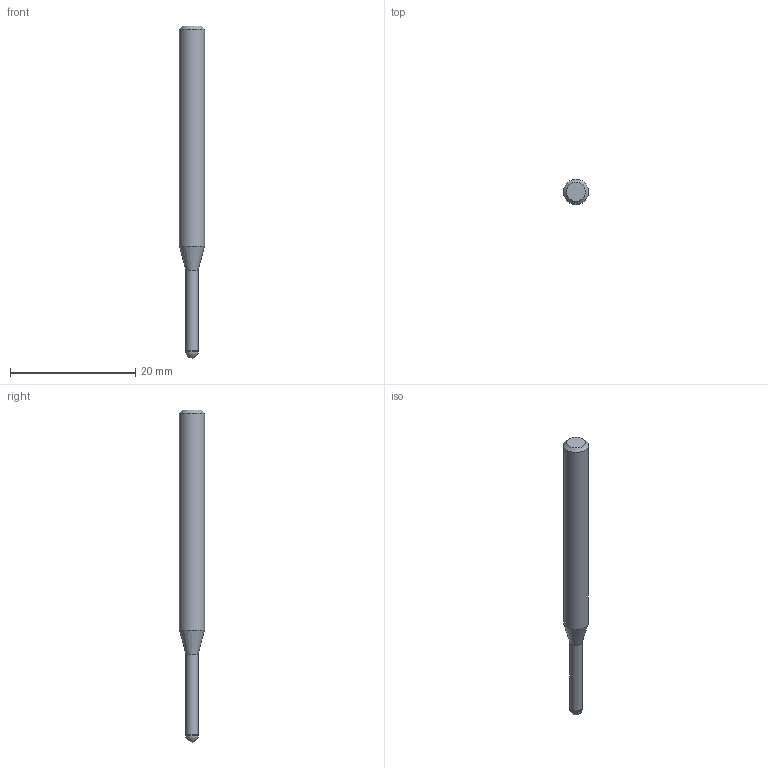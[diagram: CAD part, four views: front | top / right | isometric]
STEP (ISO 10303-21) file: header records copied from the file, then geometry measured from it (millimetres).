
FILE_DESCRIPTION((''),'2;1');
FILE_NAME('C:\Users\nsx150\AppData\Local\Temp\Mastercam 2021\LJSIDMOTM8\TEMP.step','2021-08-03T14:24:19',(''),(''),'STEP Write','Mastercam 2021 ... CNC Software, Inc.','');
FILE_SCHEMA(('AUTOMOTIVE_DESIGN'));
Length unit declared in the file: millimetre
Products named in the file (1): None
Bounding box: 4 x 4 x 53 mm (x, y, z)
Volume: 508.6 mm3; surface area: 579.1 mm2
Topology: 2 solids, 2 shells, 9 faces, 14 edges, 8 vertices
Faces by surface type: plane 3, cylinder 3, cone 2, sphere 1
Full cylindrical faces by diameter (mm): 1.94 x1, 2 x1, 4 x1
Entity records: 211 total; most frequent: DIRECTION 36, CARTESIAN_POINT 25, AXIS2_PLACEMENT_3D 18, ORIENTED_EDGE 14, EDGE_LOOP 14, STYLED_ITEM 12, ADVANCED_FACE 9, FACE_BOUND 8
